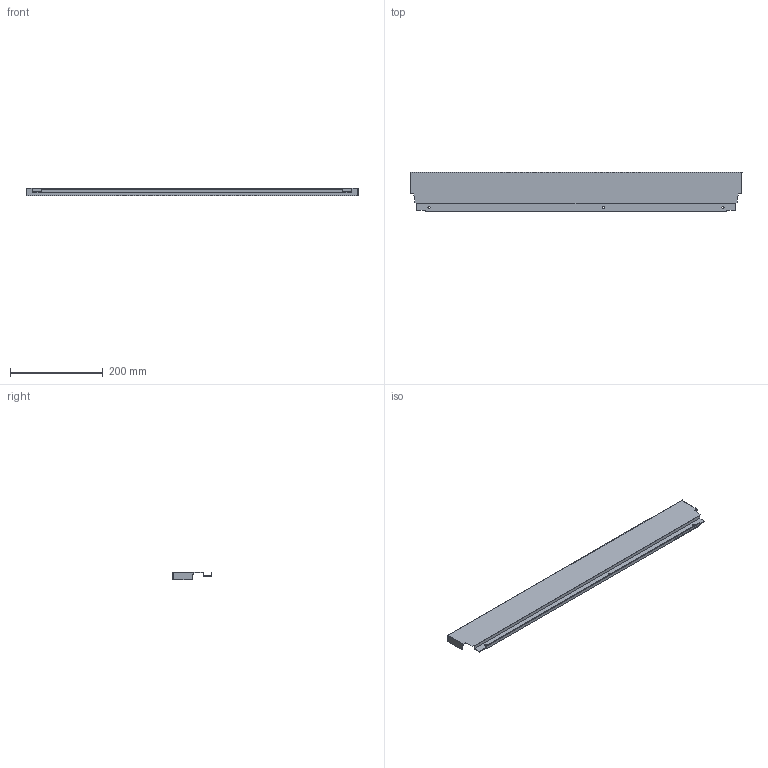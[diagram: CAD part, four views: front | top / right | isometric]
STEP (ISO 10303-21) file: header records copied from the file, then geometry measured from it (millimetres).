
FILE_DESCRIPTION (( 'STEP AP214' ), '1' );
FILE_NAME ('_DWD_XP Stahlrückwand_H86_KAB800_S18.step', '2010-07-08T12:10:24', ( 'grass' ), ( '' ), 'SwSTEP 2.0', 'SolidWorks 2010', '' );
FILE_SCHEMA (( 'AUTOMOTIVE_DESIGN' ));
Length unit declared in the file: millimetre
Products named in the file (1): _DWD_XP Stahlrückwand_H86_KAB800_S18
Bounding box: 715 x 85.79 x 16 mm (x, y, z)
Volume: 76494.3 mm3; surface area: 166233.6 mm2
Topology: 1 solids, 1 shells, 50 faces, 144 edges, 96 vertices
Faces by surface type: plane 44, cylinder 6
Entity records: 1666 total; most frequent: CARTESIAN_POINT 291, ORIENTED_EDGE 288, DIRECTION 258, EDGE_CURVE 144, LINE 132, VECTOR 132, VERTEX_POINT 96, AXIS2_PLACEMENT_3D 63
